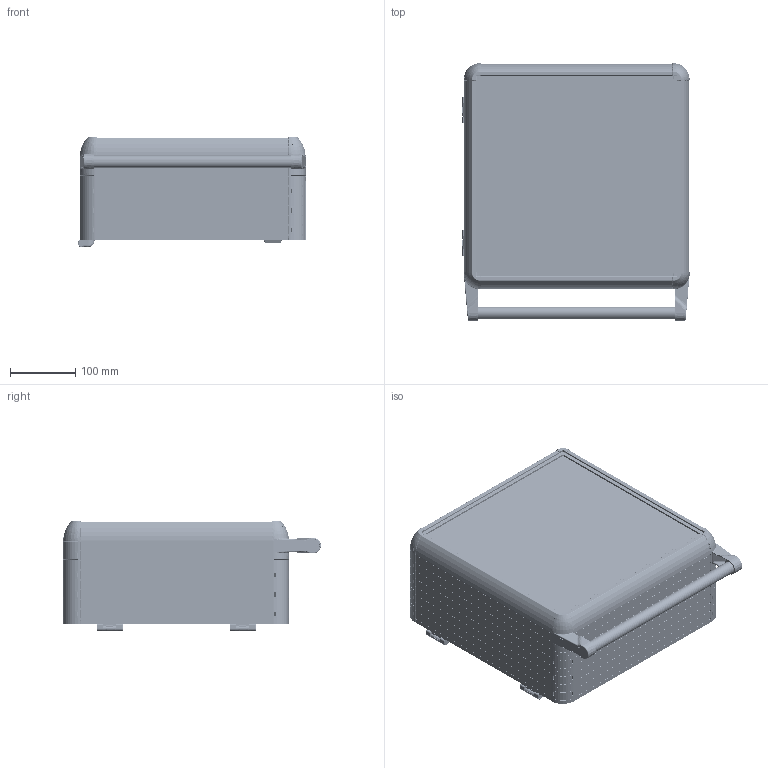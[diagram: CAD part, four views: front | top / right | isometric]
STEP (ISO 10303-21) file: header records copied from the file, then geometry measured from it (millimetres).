
FILE_DESCRIPTION (( 'STEP AP214' ), '1' );
FILE_NAME ('1500-0104.STEP', '2022-09-01T08:29:52', ( '' ), ( '' ), 'SwSTEP 2.0', 'SolidWorks 2022', '' );
FILE_SCHEMA (( 'AUTOMOTIVE_DESIGN' ));
Length unit declared in the file: millimetre
Products named in the file (8): HPECO-150-001_295; 300X300; boru_325; ARKA_KAPAK_300X300; 1500-0104; ECO1500-0000; ECO1500-0100(SAÐ); ECO1500-0100(SOL)
Assembly tree (11 placements, depth 2):
  1500-0104
    300X300
    ARKA_KAPAK_300X300
    HPECO-150-001_295  x4
    ECO1500-0000  x2
    ECO1500-0100(SOL)
    boru_325
    ECO1500-0100(SAÐ)
Bounding box: 349.03 x 395.81 x 169.15 mm (x, y, z)
Volume: 1734859.3 mm3; surface area: 1533500.9 mm2
Topology: 43 solids, 93 shells, 10953 faces, 28490 edges, 17290 vertices
Faces by surface type: plane 3591, cylinder 3038, bspline 2912, cone 782, torus 496, sphere 134
Entity records: 392106 total; most frequent: CARTESIAN_POINT 121477, ORIENTED_EDGE 42702, DIRECTION 33265, EDGE_CURVE 21351, VERTEX_POINT 12993, AXIS2_PLACEMENT_3D 12361, EDGE_LOOP 8580, LINE 8543
